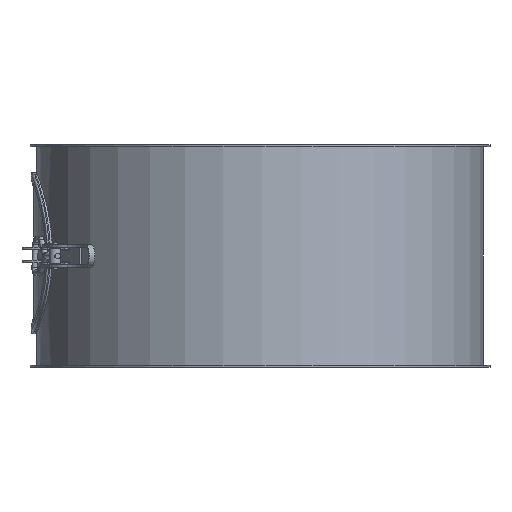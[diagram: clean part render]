
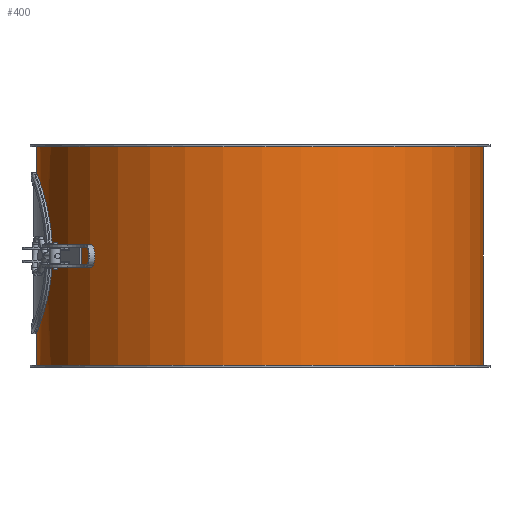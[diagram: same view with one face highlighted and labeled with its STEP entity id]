
A CAD part, front view. The second image highlights one B-rep face of the part: STEP entity #400.
In plain terms, the highlighted cylindrical face has radius 200.5 mm (diameter 401 mm), a full revolution.
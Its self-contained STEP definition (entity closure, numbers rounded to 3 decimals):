
#143=CARTESIAN_POINT('',(200.5,0.,198.0));
#144=VERTEX_POINT('',#143);
#145=CARTESIAN_POINT('',(0.0,0.0,198.0));
#146=DIRECTION('',(0.0,0.0,-1.0));
#147=DIRECTION('',(-1.0,0.0,0.0));
#148=AXIS2_PLACEMENT_3D('',#145,#146,#147);
#149=CIRCLE('',#148,200.5);
#150=EDGE_CURVE('',#144,#144,#149,.T.);
#191=CARTESIAN_POINT('',(-200.5,0.,2.0));
#192=VERTEX_POINT('',#191);
#193=CARTESIAN_POINT('',(0.0,0.0,2.0));
#194=DIRECTION('',(0.0,0.0,1.0));
#195=DIRECTION('',(-1.0,0.0,0.0));
#196=AXIS2_PLACEMENT_3D('',#193,#194,#195);
#197=CIRCLE('',#196,200.5);
#198=EDGE_CURVE('',#192,#192,#197,.T.);
#281=CARTESIAN_POINT('',(-192.078,-57.5,100.0));
#282=VERTEX_POINT('',#281);
#283=CARTESIAN_POINT('',(-192.078,-57.5,100.0));
#284=CARTESIAN_POINT('',(-192.078,-57.5,96.368));
#285=CARTESIAN_POINT('',(-192.184,-57.15,92.618));
#286=CARTESIAN_POINT('',(-192.614,-55.685,85.173));
#287=CARTESIAN_POINT('',(-192.937,-54.57,81.477));
#288=CARTESIAN_POINT('',(-193.745,-51.63,74.401));
#289=CARTESIAN_POINT('',(-194.228,-49.802,71.014));
#290=CARTESIAN_POINT('',(-195.261,-45.588,64.755));
#291=CARTESIAN_POINT('',(-195.808,-43.2,61.883));
#292=CARTESIAN_POINT('',(-196.86,-38.118,56.801));
#293=CARTESIAN_POINT('',(-197.403,-35.246,54.413));
#294=CARTESIAN_POINT('',(-198.419,-28.987,50.198));
#295=CARTESIAN_POINT('',(-198.891,-25.6,48.371));
#296=CARTESIAN_POINT('',(-199.674,-18.522,45.43));
#297=CARTESIAN_POINT('',(-199.986,-14.826,44.315));
#298=CARTESIAN_POINT('',(-200.399,-7.381,42.85));
#299=CARTESIAN_POINT('',(-200.5,-3.632,42.5));
#300=CARTESIAN_POINT('',(-200.5,3.632,42.5));
#301=CARTESIAN_POINT('',(-200.399,7.381,42.85));
#302=CARTESIAN_POINT('',(-199.986,14.826,44.315));
#303=CARTESIAN_POINT('',(-199.674,18.522,45.43));
#304=CARTESIAN_POINT('',(-198.891,25.6,48.371));
#305=CARTESIAN_POINT('',(-198.419,28.987,50.198));
#306=CARTESIAN_POINT('',(-197.403,35.246,54.413));
#307=CARTESIAN_POINT('',(-196.86,38.118,56.801));
#308=CARTESIAN_POINT('',(-195.808,43.2,61.883));
#309=CARTESIAN_POINT('',(-195.261,45.588,64.755));
#310=CARTESIAN_POINT('',(-194.228,49.802,71.014));
#311=CARTESIAN_POINT('',(-193.745,51.63,74.401));
#312=CARTESIAN_POINT('',(-192.937,54.57,81.477));
#313=CARTESIAN_POINT('',(-192.614,55.685,85.173));
#314=CARTESIAN_POINT('',(-192.184,57.15,92.618));
#315=CARTESIAN_POINT('',(-192.078,57.5,96.368));
#316=CARTESIAN_POINT('',(-192.078,57.5,103.632));
#317=CARTESIAN_POINT('',(-192.184,57.15,107.382));
#318=CARTESIAN_POINT('',(-192.614,55.685,114.827));
#319=CARTESIAN_POINT('',(-192.937,54.57,118.523));
#320=CARTESIAN_POINT('',(-193.745,51.63,125.599));
#321=CARTESIAN_POINT('',(-194.228,49.802,128.986));
#322=CARTESIAN_POINT('',(-195.261,45.588,135.245));
#323=CARTESIAN_POINT('',(-195.808,43.2,138.117));
#324=CARTESIAN_POINT('',(-196.86,38.118,143.199));
#325=CARTESIAN_POINT('',(-197.403,35.246,145.587));
#326=CARTESIAN_POINT('',(-198.419,28.987,149.802));
#327=CARTESIAN_POINT('',(-198.891,25.6,151.629));
#328=CARTESIAN_POINT('',(-199.674,18.522,154.57));
#329=CARTESIAN_POINT('',(-199.986,14.826,155.685));
#330=CARTESIAN_POINT('',(-200.399,7.381,157.15));
#331=CARTESIAN_POINT('',(-200.5,3.632,157.5));
#332=CARTESIAN_POINT('',(-200.5,-3.632,157.5));
#333=CARTESIAN_POINT('',(-200.399,-7.381,157.15));
#334=CARTESIAN_POINT('',(-199.986,-14.826,155.685));
#335=CARTESIAN_POINT('',(-199.674,-18.522,154.57));
#336=CARTESIAN_POINT('',(-198.891,-25.6,151.629));
#337=CARTESIAN_POINT('',(-198.419,-28.987,149.802));
#338=CARTESIAN_POINT('',(-197.403,-35.246,145.587));
#339=CARTESIAN_POINT('',(-196.86,-38.118,143.199));
#340=CARTESIAN_POINT('',(-195.808,-43.2,138.117));
#341=CARTESIAN_POINT('',(-195.261,-45.588,135.245));
#342=CARTESIAN_POINT('',(-194.228,-49.802,128.986));
#343=CARTESIAN_POINT('',(-193.745,-51.63,125.599));
#344=CARTESIAN_POINT('',(-192.937,-54.57,118.523));
#345=CARTESIAN_POINT('',(-192.614,-55.685,114.827));
#346=CARTESIAN_POINT('',(-192.184,-57.15,107.382));
#347=CARTESIAN_POINT('',(-192.078,-57.5,103.632));
#348=CARTESIAN_POINT('',(-192.078,-57.5,100.0));
#349=B_SPLINE_CURVE_WITH_KNOTS('',3,(#283,#284,#285,#286,#287,#288,#289,#290,#291,#292,#293,#294,#295,#296,#297,#298,#299,#300,#301,#302,#303,#304,#305,#306,#307,#308,#309,#310,#311,#312,#313,#314,#315,#316,#317,#318,#319,#320,#321,#322,#323,#324,#325,#326,#327,#328,#329,#330,#331,#332,#333,#334,#335,#336,#337,#338,#339,#340,#341,#342,#343,#344,#345,#346,#347,#348),.UNSPECIFIED.,.T.,.U.,(4,2,2,2,2,2,2,2,2,2,2,2,2,2,2,2,2,2,2,2,2,2,2,2,2,2,2,2,2,2,2,2,4),(0.0,1.09,2.179,3.269,4.359,5.448,6.538,7.627,8.717,9.806,10.896,11.985,13.075,14.164,15.254,16.344,17.434,18.523,19.613,20.703,21.793,22.882,23.972,25.061,26.151,27.24,28.329,29.419,30.508,31.598,32.688,33.778,34.867),.UNSPECIFIED.);
#350=EDGE_CURVE('',#282,#282,#349,.T.);
#386=CARTESIAN_POINT('',(0.0,0.0,0.0));
#387=DIRECTION('',(0.0,0.0,1.0));
#388=DIRECTION('',(-1.0,0.0,0.0));
#389=AXIS2_PLACEMENT_3D('',#386,#387,#388);
#390=CYLINDRICAL_SURFACE('',#389,200.5);
#391=ORIENTED_EDGE('',*,*,#150,.T.);
#392=EDGE_LOOP('',(#391));
#393=FACE_OUTER_BOUND('',#392,.T.);
#394=ORIENTED_EDGE('',*,*,#198,.T.);
#395=EDGE_LOOP('',(#394));
#396=FACE_BOUND('',#395,.T.);
#397=ORIENTED_EDGE('',*,*,#350,.T.);
#398=EDGE_LOOP('',(#397));
#399=FACE_BOUND('',#398,.T.);
#400=ADVANCED_FACE('',(#393,#396,#399),#390,.T.);
